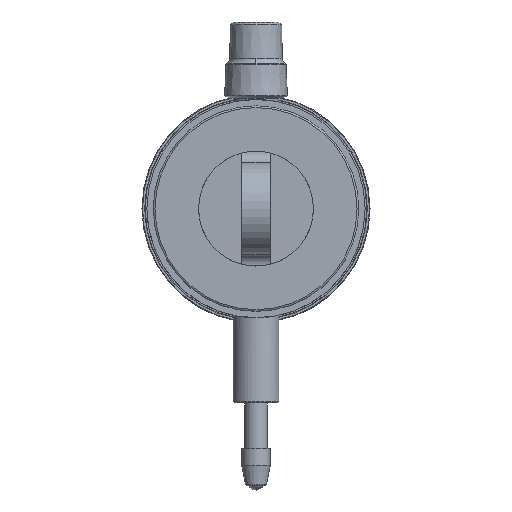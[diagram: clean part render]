
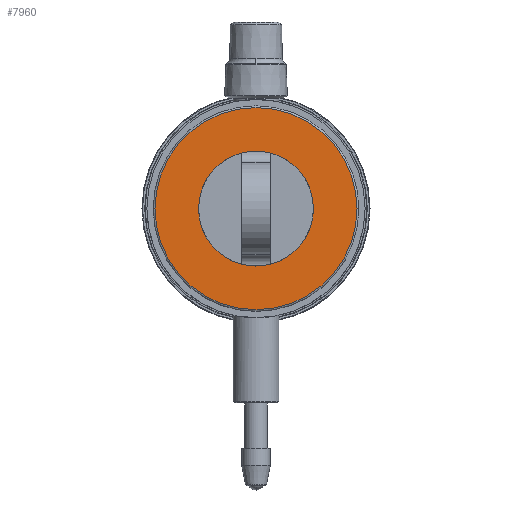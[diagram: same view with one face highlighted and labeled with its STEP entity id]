
A CAD part, left-side view. The second image highlights one B-rep face of the part: STEP entity #7960.
In plain terms, the highlighted planar face has unit normal (-1, 0, 0).
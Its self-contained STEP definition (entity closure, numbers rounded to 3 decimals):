
#7570=CARTESIAN_POINT('',(-1.8,0.,-8.95)
);
#7580=DIRECTION('',(1.,-0.,0.));
#7590=DIRECTION('',(0.,0.,-1.));
#7600=AXIS2_PLACEMENT_3D('',#7570,#7580,#7590);
#7610=PLANE('',#7600);
#7620=CARTESIAN_POINT('',(-1.8,0.,0.));
#7630=DIRECTION('',(-1.,0.,0.));
#7640=DIRECTION('',(0.,1.,0.));
#7650=AXIS2_PLACEMENT_3D('',#7620,#7630,#7640);
#7660=CIRCLE('',#7650,10.);
#7670=CARTESIAN_POINT('',(-1.8,10.,0.));
#7680=VERTEX_POINT('',#7670);
#7690=CARTESIAN_POINT('',(-1.8,-10.,0.))
;
#7700=VERTEX_POINT('',#7690);
#7710=EDGE_CURVE('',#7680,#7700,#7660,.T.);
#7720=ORIENTED_EDGE('',*,*,#7710,.F.);
#7730=EDGE_CURVE('',#7700,#7680,#7660,.T.);
#7740=ORIENTED_EDGE('',*,*,#7730,.F.);
#7750=EDGE_LOOP('',(#7740,#7720));
#7760=FACE_BOUND('',#7750,.T.);
#7770=CARTESIAN_POINT('',(-1.8,0.,0.));
#7780=DIRECTION('',(-1.,0.,0.));
#7790=DIRECTION('',(0.,1.,0.));
#7800=AXIS2_PLACEMENT_3D('',#7770,#7780,#7790);
#7810=CIRCLE('',#7800,17.6);
#7820=CARTESIAN_POINT('',(-1.8,-17.6,0.));
#7830=VERTEX_POINT('',#7820);
#7840=CARTESIAN_POINT('',(-1.8,17.6,0.));
#7850=VERTEX_POINT('',#7840);
#7860=EDGE_CURVE('',#7830,#7850,#7810,.T.);
#7870=ORIENTED_EDGE('',*,*,#7860,.T.);
#7880=CARTESIAN_POINT('',(-1.8,0.,-17.6))
;
#7890=VERTEX_POINT('',#7880);
#7900=EDGE_CURVE('',#7890,#7830,#7810,.T.);
#7910=ORIENTED_EDGE('',*,*,#7900,.T.);
#7920=EDGE_CURVE('',#7850,#7890,#7810,.T.);
#7930=ORIENTED_EDGE('',*,*,#7920,.T.);
#7940=EDGE_LOOP('',(#7930,#7910,#7870));
#7950=FACE_OUTER_BOUND('',#7940,.T.);
#7960=ADVANCED_FACE('',(#7760,#7950),#7610,.F.);
